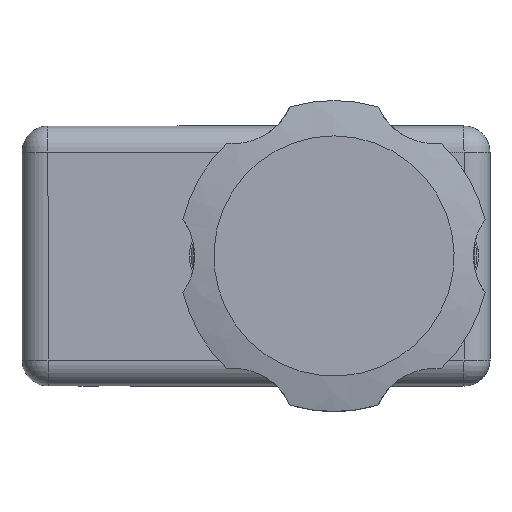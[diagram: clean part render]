
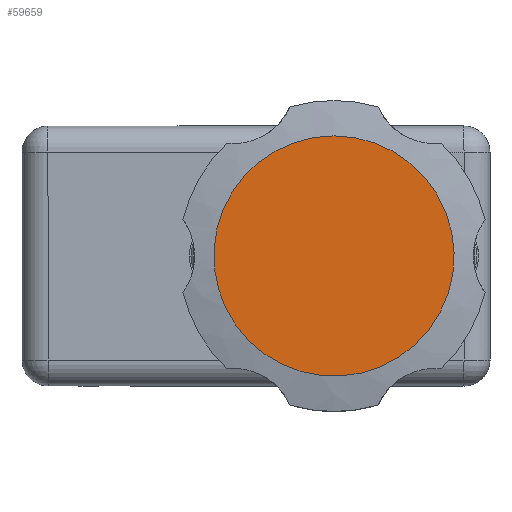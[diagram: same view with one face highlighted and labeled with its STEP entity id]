
A CAD part, left-side view. The second image highlights one B-rep face of the part: STEP entity #59659.
In plain terms, the highlighted planar face has unit normal (-1, 0, 0).
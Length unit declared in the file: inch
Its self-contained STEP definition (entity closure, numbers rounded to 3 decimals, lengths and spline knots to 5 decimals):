
#58673=CARTESIAN_POINT('',(18.59119,-3.20461,-6.75618));
#58674=VERTEX_POINT('',#58673);
#58675=CARTESIAN_POINT('',(18.59119,-3.20461,-7.33368));
#58676=DIRECTION('',(-1.0,0.0,0.0));
#58677=DIRECTION('',(0.0,0.0,1.0));
#58678=AXIS2_PLACEMENT_3D('',#58675,#58676,#58677);
#58679=CIRCLE('',#58678,0.5775);
#58680=EDGE_CURVE('',#58674,#58674,#58679,.T.);
#59651=CARTESIAN_POINT('',(18.59119,-3.20461,-7.33368));
#59652=DIRECTION('',(-1.0,0.0,0.0));
#59653=DIRECTION('',(0.0,0.0,1.0));
#59654=AXIS2_PLACEMENT_3D('',#59651,#59652,#59653);
#59655=PLANE('',#59654);
#59656=ORIENTED_EDGE('',*,*,#58680,.T.);
#59657=EDGE_LOOP('',(#59656));
#59658=FACE_OUTER_BOUND('',#59657,.T.);
#59659=ADVANCED_FACE('',(#59658),#59655,.T.);
